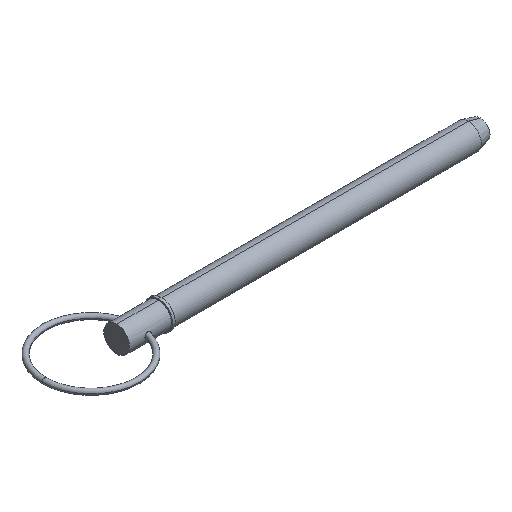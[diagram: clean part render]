
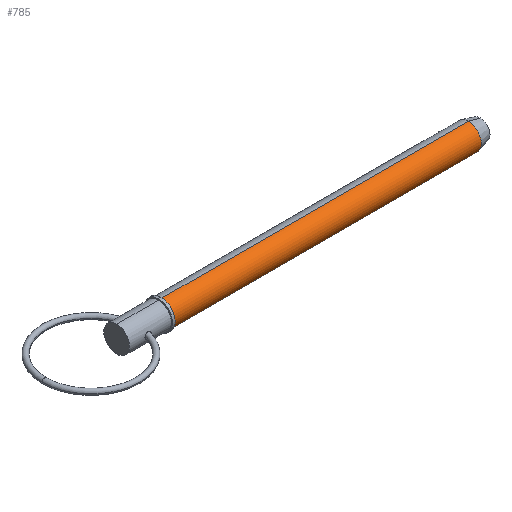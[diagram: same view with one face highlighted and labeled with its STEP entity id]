
A CAD part, isometric view. The second image highlights one B-rep face of the part: STEP entity #785.
In plain terms, the highlighted cylindrical face has radius 7.94 mm (diameter 15.88 mm), a partial arc.
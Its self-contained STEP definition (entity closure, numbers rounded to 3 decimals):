
#10 = AXIS2_PLACEMENT_3D ( 'NONE', #86, #882, #243 ) ;
#86 = CARTESIAN_POINT ( 'NONE',  ( 0., 0., 0. ) ) ;
#91 = ORIENTED_EDGE ( 'NONE', *, *, #825, .T. ) ;
#92 = DIRECTION ( 'NONE',  ( 0., 0., -1. ) ) ;
#109 = CARTESIAN_POINT ( 'NONE',  ( 0., 0., -7.94 ) ) ;
#136 = LINE ( 'NONE', #362, #656 ) ;
#156 = CYLINDRICAL_SURFACE ( 'NONE', #10, 7.94 ) ;
#161 = AXIS2_PLACEMENT_3D ( 'NONE', #557, #992, #314 ) ;
#182 = VERTEX_POINT ( 'NONE', #218 ) ;
#207 = CARTESIAN_POINT ( 'NONE',  ( 27.31, 0., -7.94 ) ) ;
#218 = CARTESIAN_POINT ( 'NONE',  ( 27.31, 0., 7.94 ) ) ;
#227 = AXIS2_PLACEMENT_3D ( 'NONE', #253, #816, #92 ) ;
#243 = DIRECTION ( 'NONE',  ( 0., 0., -1. ) ) ;
#253 = CARTESIAN_POINT ( 'NONE',  ( 27.31, 0., 0. ) ) ;
#279 = EDGE_LOOP ( 'NONE', ( #651, #91, #474, #506 ) ) ;
#306 = DIRECTION ( 'NONE',  ( 1., 0., 0. ) ) ;
#314 = DIRECTION ( 'NONE',  ( 0., 0., -1. ) ) ;
#351 = EDGE_CURVE ( 'NONE', #564, #972, #425, .T. ) ;
#362 = CARTESIAN_POINT ( 'NONE',  ( 0., 0., 7.94 ) ) ;
#425 = LINE ( 'NONE', #109, #620 ) ;
#474 = ORIENTED_EDGE ( 'NONE', *, *, #351, .T. ) ;
#503 = VERTEX_POINT ( 'NONE', #526 ) ;
#506 = ORIENTED_EDGE ( 'NONE', *, *, #707, .F. ) ;
#526 = CARTESIAN_POINT ( 'NONE',  ( 216.752, 0., 7.94 ) ) ;
#557 = CARTESIAN_POINT ( 'NONE',  ( 216.752, 0., 0. ) ) ;
#564 = VERTEX_POINT ( 'NONE', #207 ) ;
#620 = VECTOR ( 'NONE', #832, 1000. ) ;
#651 = ORIENTED_EDGE ( 'NONE', *, *, #669, .F. ) ;
#656 = VECTOR ( 'NONE', #306, 1000. ) ;
#669 = EDGE_CURVE ( 'NONE', #182, #503, #136, .T. ) ;
#673 = CARTESIAN_POINT ( 'NONE',  ( 216.752, 0., -7.94 ) ) ;
#685 = CIRCLE ( 'NONE', #161, 7.94 ) ;
#707 = EDGE_CURVE ( 'NONE', #503, #972, #685, .T. ) ;
#785 = ADVANCED_FACE ( 'NONE', ( #978 ), #156, .T. ) ;
#816 = DIRECTION ( 'NONE',  ( 1., 0., 0. ) ) ;
#825 = EDGE_CURVE ( 'NONE', #182, #564, #1002, .T. ) ;
#832 = DIRECTION ( 'NONE',  ( 1., 0., 0. ) ) ;
#882 = DIRECTION ( 'NONE',  ( 1., 0., 0. ) ) ;
#972 = VERTEX_POINT ( 'NONE', #673 ) ;
#978 = FACE_OUTER_BOUND ( 'NONE', #279, .T. ) ;
#992 = DIRECTION ( 'NONE',  ( 1., 0., 0. ) ) ;
#1002 = CIRCLE ( 'NONE', #227, 7.94 ) ;
